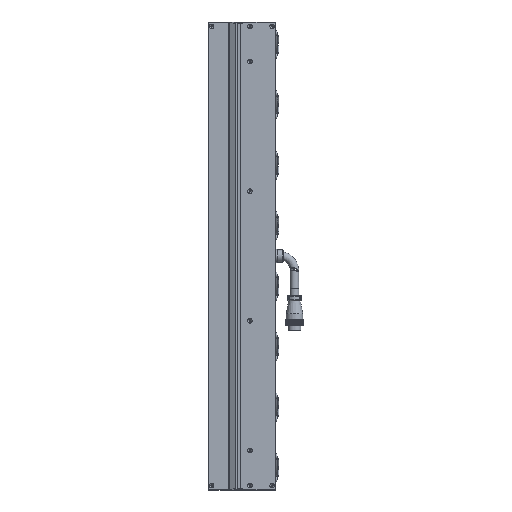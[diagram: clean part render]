
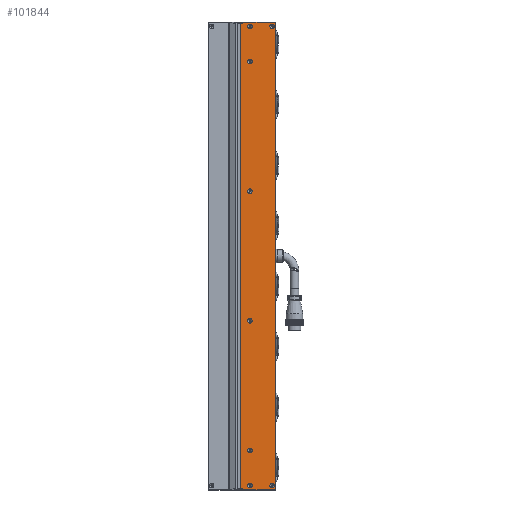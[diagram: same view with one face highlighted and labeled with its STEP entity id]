
A CAD part, left-side view. The second image highlights one B-rep face of the part: STEP entity #101844.
In plain terms, the highlighted planar face has unit normal (-1, 0, 0).
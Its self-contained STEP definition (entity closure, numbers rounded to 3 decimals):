
#1575 = LINE ( 'NONE', #40748, #9452 ) ;
#2073 = CIRCLE ( 'NONE', #97200, 3.15 ) ;
#2878 = DIRECTION ( 'NONE',  ( -1., 0., 0. ) ) ;
#3353 = EDGE_CURVE ( 'NONE', #31656, #43345, #66331, .T. ) ;
#3554 = VERTEX_POINT ( 'NONE', #115597 ) ;
#4454 = CARTESIAN_POINT ( 'NONE',  ( -24.998, -72.5, 323. ) ) ;
#5813 = CARTESIAN_POINT ( 'NONE',  ( -24.998, -26.5, 323. ) ) ;
#6071 = EDGE_CURVE ( 'NONE', #84688, #128509, #118342, .T. ) ;
#6155 = CIRCLE ( 'NONE', #62208, 3.15 ) ;
#6493 = FACE_OUTER_BOUND ( 'NONE', #6634, .T. ) ;
#6519 = CARTESIAN_POINT ( 'NONE',  ( -24.998, -72.5, -323. ) ) ;
#6634 = EDGE_LOOP ( 'NONE', ( #62602, #72502, #63843, #9031, #68801, #49238, #49419, #28506 ) ) ;
#7255 = CARTESIAN_POINT ( 'NONE',  ( -24.998, -36.5, -86.85 ) ) ;
#7527 = AXIS2_PLACEMENT_3D ( 'NONE', #70204, #50332, #21213 ) ;
#8577 = EDGE_LOOP ( 'NONE', ( #50367 ) ) ;
#8673 = LINE ( 'NONE', #116863, #56054 ) ;
#8961 = EDGE_LOOP ( 'NONE', ( #83975 ) ) ;
#9031 = ORIENTED_EDGE ( 'NONE', *, *, #125274, .T. ) ;
#9452 = VECTOR ( 'NONE', #50436, 1000. ) ;
#10079 = CARTESIAN_POINT ( 'NONE',  ( -24.998, -36.5, -315.85 ) ) ;
#11206 = FACE_BOUND ( 'NONE', #102536, .T. ) ;
#11377 = CARTESIAN_POINT ( 'NONE',  ( -24.998, -36.5, 273.15 ) ) ;
#11861 = DIRECTION ( 'NONE',  ( 0., 0., 1. ) ) ;
#12758 = EDGE_CURVE ( 'NONE', #73670, #73670, #66843, .T. ) ;
#14165 = VECTOR ( 'NONE', #24902, 1000. ) ;
#14517 = FACE_BOUND ( 'NONE', #21402, .T. ) ;
#15472 = DIRECTION ( 'NONE',  ( -1., 0., 0. ) ) ;
#15563 = CIRCLE ( 'NONE', #69355, 3.15 ) ;
#16038 = CARTESIAN_POINT ( 'NONE',  ( -24.998, -26.5, -323. ) ) ;
#19889 = CIRCLE ( 'NONE', #125513, 3.15 ) ;
#20614 = VECTOR ( 'NONE', #59256, 1000. ) ;
#21213 = DIRECTION ( 'NONE',  ( 0., 0., 1. ) ) ;
#21386 = ORIENTED_EDGE ( 'NONE', *, *, #52995, .F. ) ;
#21402 = EDGE_LOOP ( 'NONE', ( #44784 ) ) ;
#21555 = DIRECTION ( 'NONE',  ( 0., 0., 1. ) ) ;
#22500 = CARTESIAN_POINT ( 'NONE',  ( -24.998, -36.5, -319. ) ) ;
#23987 = ORIENTED_EDGE ( 'NONE', *, *, #28671, .F. ) ;
#24049 = FACE_BOUND ( 'NONE', #8577, .T. ) ;
#24902 = DIRECTION ( 'NONE',  ( 0., 0., 1. ) ) ;
#26259 = EDGE_CURVE ( 'NONE', #121200, #121200, #2073, .T. ) ;
#28445 = CIRCLE ( 'NONE', #53042, 3.15 ) ;
#28506 = ORIENTED_EDGE ( 'NONE', *, *, #3353, .F. ) ;
#28671 = EDGE_CURVE ( 'NONE', #81421, #81421, #60300, .T. ) ;
#28793 = CARTESIAN_POINT ( 'NONE',  ( -24.998, -72.5, -324.5 ) ) ;
#30472 = CARTESIAN_POINT ( 'NONE',  ( -24.998, -26.5, -324.5 ) ) ;
#31656 = VERTEX_POINT ( 'NONE', #46364 ) ;
#37772 = ORIENTED_EDGE ( 'NONE', *, *, #12758, .F. ) ;
#38043 = PLANE ( 'NONE',  #101104 ) ;
#39850 = EDGE_CURVE ( 'NONE', #99969, #67381, #1575, .T. ) ;
#40748 = CARTESIAN_POINT ( 'NONE',  ( -24.998, -26.5, -316. ) ) ;
#41049 = ORIENTED_EDGE ( 'NONE', *, *, #95704, .F. ) ;
#42941 = CARTESIAN_POINT ( 'NONE',  ( -24.998, -26.5, 316. ) ) ;
#43345 = VERTEX_POINT ( 'NONE', #120842 ) ;
#44784 = ORIENTED_EDGE ( 'NONE', *, *, #26259, .F. ) ;
#45352 = CARTESIAN_POINT ( 'NONE',  ( -24.998, -36.5, -90. ) ) ;
#46364 = CARTESIAN_POINT ( 'NONE',  ( -24.998, -23.25, -323. ) ) ;
#46641 = DIRECTION ( 'NONE',  ( 0., 0., 1. ) ) ;
#46693 = VERTEX_POINT ( 'NONE', #76688 ) ;
#46768 = EDGE_CURVE ( 'NONE', #43345, #73769, #83920, .T. ) ;
#46909 = EDGE_LOOP ( 'NONE', ( #37772 ) ) ;
#47389 = EDGE_LOOP ( 'NONE', ( #21386 ) ) ;
#48602 = DIRECTION ( 'NONE',  ( 1., 0., 0. ) ) ;
#49000 = CARTESIAN_POINT ( 'NONE',  ( -24.998, -67.5, -319. ) ) ;
#49238 = ORIENTED_EDGE ( 'NONE', *, *, #129913, .T. ) ;
#49419 = ORIENTED_EDGE ( 'NONE', *, *, #46768, .F. ) ;
#50332 = DIRECTION ( 'NONE',  ( -1., 0., 0. ) ) ;
#50367 = ORIENTED_EDGE ( 'NONE', *, *, #75336, .F. ) ;
#50436 = DIRECTION ( 'NONE',  ( 0., 0., -1. ) ) ;
#50656 = VECTOR ( 'NONE', #84927, 1000. ) ;
#52669 = VERTEX_POINT ( 'NONE', #65037 ) ;
#52995 = EDGE_CURVE ( 'NONE', #46693, #46693, #19889, .T. ) ;
#53042 = AXIS2_PLACEMENT_3D ( 'NONE', #89515, #130441, #99265 ) ;
#53254 = ORIENTED_EDGE ( 'NONE', *, *, #112935, .F. ) ;
#55197 = CARTESIAN_POINT ( 'NONE',  ( -24.998, -36.5, 270. ) ) ;
#56054 = VECTOR ( 'NONE', #56116, 1000. ) ;
#56116 = DIRECTION ( 'NONE',  ( 0., 0., 1. ) ) ;
#59256 = DIRECTION ( 'NONE',  ( 0., -1., 0. ) ) ;
#60300 = CIRCLE ( 'NONE', #61712, 3.15 ) ;
#61712 = AXIS2_PLACEMENT_3D ( 'NONE', #22500, #63518, #11861 ) ;
#61786 = FACE_BOUND ( 'NONE', #98170, .T. ) ;
#62208 = AXIS2_PLACEMENT_3D ( 'NONE', #49000, #88798, #68426 ) ;
#62318 = CIRCLE ( 'NONE', #121430, 3.15 ) ;
#62602 = ORIENTED_EDGE ( 'NONE', *, *, #77876, .T. ) ;
#63432 = CARTESIAN_POINT ( 'NONE',  ( -24.998, -67.5, 319. ) ) ;
#63518 = DIRECTION ( 'NONE',  ( -1., 0., 0. ) ) ;
#63843 = ORIENTED_EDGE ( 'NONE', *, *, #118813, .T. ) ;
#65037 = CARTESIAN_POINT ( 'NONE',  ( -24.998, -36.5, -266.85 ) ) ;
#66331 = LINE ( 'NONE', #85880, #14165 ) ;
#66843 = CIRCLE ( 'NONE', #7527, 3.15 ) ;
#67381 = VERTEX_POINT ( 'NONE', #30472 ) ;
#68219 = FACE_BOUND ( 'NONE', #8961, .T. ) ;
#68426 = DIRECTION ( 'NONE',  ( 0., 0., 1. ) ) ;
#68801 = ORIENTED_EDGE ( 'NONE', *, *, #6071, .T. ) ;
#69355 = AXIS2_PLACEMENT_3D ( 'NONE', #45352, #105949, #46641 ) ;
#70204 = CARTESIAN_POINT ( 'NONE',  ( -24.998, -36.5, 319. ) ) ;
#71444 = EDGE_LOOP ( 'NONE', ( #41049 ) ) ;
#72502 = ORIENTED_EDGE ( 'NONE', *, *, #39850, .T. ) ;
#73670 = VERTEX_POINT ( 'NONE', #98971 ) ;
#73769 = VERTEX_POINT ( 'NONE', #5813 ) ;
#75336 = EDGE_CURVE ( 'NONE', #95664, #95664, #15563, .T. ) ;
#76688 = CARTESIAN_POINT ( 'NONE',  ( -24.998, -36.5, 93.15 ) ) ;
#77876 = EDGE_CURVE ( 'NONE', #31656, #99969, #130880, .T. ) ;
#78804 = CARTESIAN_POINT ( 'NONE',  ( -24.998, -72.5, 324.5 ) ) ;
#80624 = CARTESIAN_POINT ( 'NONE',  ( -24.998, -67.5, -315.85 ) ) ;
#81421 = VERTEX_POINT ( 'NONE', #10079 ) ;
#83920 = LINE ( 'NONE', #4454, #50656 ) ;
#83975 = ORIENTED_EDGE ( 'NONE', *, *, #119583, .F. ) ;
#84688 = VERTEX_POINT ( 'NONE', #88094 ) ;
#84927 = DIRECTION ( 'NONE',  ( 0., -1., 0. ) ) ;
#85092 = LINE ( 'NONE', #42941, #118378 ) ;
#85677 = DIRECTION ( 'NONE',  ( 0., -1., 0. ) ) ;
#85880 = CARTESIAN_POINT ( 'NONE',  ( -24.998, -23.25, -323. ) ) ;
#88094 = CARTESIAN_POINT ( 'NONE',  ( -24.998, -72., 324.5 ) ) ;
#88798 = DIRECTION ( 'NONE',  ( -1., 0., 0. ) ) ;
#89509 = VECTOR ( 'NONE', #85677, 1000. ) ;
#89515 = CARTESIAN_POINT ( 'NONE',  ( -24.998, -36.5, -270. ) ) ;
#90211 = LINE ( 'NONE', #28793, #20614 ) ;
#90365 = FACE_BOUND ( 'NONE', #47389, .T. ) ;
#90702 = CARTESIAN_POINT ( 'NONE',  ( -24.998, -26.5, 324.5 ) ) ;
#90754 = VERTEX_POINT ( 'NONE', #80624 ) ;
#92021 = FACE_BOUND ( 'NONE', #71444, .T. ) ;
#92452 = VERTEX_POINT ( 'NONE', #111963 ) ;
#92922 = VECTOR ( 'NONE', #108053, 1000. ) ;
#94340 = CARTESIAN_POINT ( 'NONE',  ( -24.998, -36.5, 90. ) ) ;
#95162 = FACE_BOUND ( 'NONE', #46909, .T. ) ;
#95476 = DIRECTION ( 'NONE',  ( 0., 0., 1. ) ) ;
#95664 = VERTEX_POINT ( 'NONE', #7255 ) ;
#95704 = EDGE_CURVE ( 'NONE', #90754, #90754, #6155, .T. ) ;
#97200 = AXIS2_PLACEMENT_3D ( 'NONE', #55197, #15472, #95476 ) ;
#98170 = EDGE_LOOP ( 'NONE', ( #23987 ) ) ;
#98603 = DIRECTION ( 'NONE',  ( 0., 0., -1. ) ) ;
#98971 = CARTESIAN_POINT ( 'NONE',  ( -24.998, -36.5, 322.15 ) ) ;
#99265 = DIRECTION ( 'NONE',  ( 0., 0., 1. ) ) ;
#99969 = VERTEX_POINT ( 'NONE', #16038 ) ;
#101104 = AXIS2_PLACEMENT_3D ( 'NONE', #118664, #48602, #98603 ) ;
#101844 = ADVANCED_FACE ( 'NONE', ( #95162, #68219, #24049, #90365, #14517, #92021, #61786, #6493, #11206 ), #38043, .F. ) ;
#102536 = EDGE_LOOP ( 'NONE', ( #53254 ) ) ;
#104568 = DIRECTION ( 'NONE',  ( -1., 0., 0. ) ) ;
#105949 = DIRECTION ( 'NONE',  ( -1., 0., 0. ) ) ;
#108053 = DIRECTION ( 'NONE',  ( 0., 1., 0. ) ) ;
#111963 = CARTESIAN_POINT ( 'NONE',  ( -24.998, -72., -324.5 ) ) ;
#112935 = EDGE_CURVE ( 'NONE', #3554, #3554, #62318, .T. ) ;
#115597 = CARTESIAN_POINT ( 'NONE',  ( -24.998, -67.5, 322.15 ) ) ;
#116863 = CARTESIAN_POINT ( 'NONE',  ( -24.998, -72., 323. ) ) ;
#117023 = DIRECTION ( 'NONE',  ( 0., 0., 1. ) ) ;
#118342 = LINE ( 'NONE', #78804, #92922 ) ;
#118378 = VECTOR ( 'NONE', #123127, 1000. ) ;
#118664 = CARTESIAN_POINT ( 'NONE',  ( -24.998, -72.5, 323. ) ) ;
#118813 = EDGE_CURVE ( 'NONE', #67381, #92452, #90211, .T. ) ;
#119583 = EDGE_CURVE ( 'NONE', #52669, #52669, #28445, .T. ) ;
#120842 = CARTESIAN_POINT ( 'NONE',  ( -24.998, -23.25, 323. ) ) ;
#121200 = VERTEX_POINT ( 'NONE', #11377 ) ;
#121430 = AXIS2_PLACEMENT_3D ( 'NONE', #63432, #2878, #21555 ) ;
#123127 = DIRECTION ( 'NONE',  ( 0., 0., -1. ) ) ;
#125274 = EDGE_CURVE ( 'NONE', #92452, #84688, #8673, .T. ) ;
#125513 = AXIS2_PLACEMENT_3D ( 'NONE', #94340, #104568, #117023 ) ;
#128509 = VERTEX_POINT ( 'NONE', #90702 ) ;
#129913 = EDGE_CURVE ( 'NONE', #128509, #73769, #85092, .T. ) ;
#130441 = DIRECTION ( 'NONE',  ( -1., 0., 0. ) ) ;
#130880 = LINE ( 'NONE', #6519, #89509 ) ;
